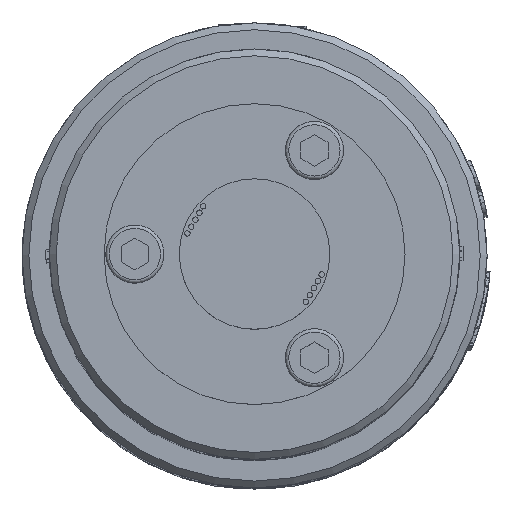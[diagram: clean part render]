
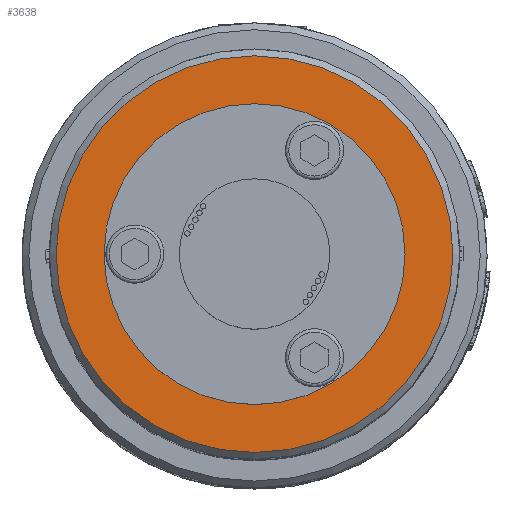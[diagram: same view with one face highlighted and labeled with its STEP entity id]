
A CAD part, top view. The second image highlights one B-rep face of the part: STEP entity #3638.
In plain terms, the highlighted planar face has unit normal (0, 0, 1).
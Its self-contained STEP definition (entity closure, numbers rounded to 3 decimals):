
#904=FACE_BOUND('',#8782,.T.);
#905=FACE_BOUND('',#8783,.T.);
#1486=CIRCLE('',#27268,29.);
#1497=CIRCLE('',#27311,22.);
#1953=PLANE('',#27312);
#3638=ADVANCED_FACE('',(#904,#905),#1953,.T.);
#8782=EDGE_LOOP('',(#13503));
#8783=EDGE_LOOP('',(#13504));
#13503=ORIENTED_EDGE('',*,*,#21641,.T.);
#13504=ORIENTED_EDGE('',*,*,#21706,.F.);
#18632=VERTEX_POINT('',#43006);
#18679=VERTEX_POINT('',#43150);
#21641=EDGE_CURVE('',#18632,#18632,#1486,.T.);
#21706=EDGE_CURVE('',#18679,#18679,#1497,.T.);
#27268=AXIS2_PLACEMENT_3D('',#43005,#30425,#30426);
#27311=AXIS2_PLACEMENT_3D('',#43149,#30565,#30566);
#27312=AXIS2_PLACEMENT_3D('',#43151,#30567,#30568);
#30425=DIRECTION('',(0.,0.,1.));
#30426=DIRECTION('',(1.,0.,0.));
#30565=DIRECTION('',(0.,0.,1.));
#30566=DIRECTION('',(0.866,-0.5,0.));
#30567=DIRECTION('',(0.,0.,1.));
#30568=DIRECTION('',(1.,0.,0.));
#43005=CARTESIAN_POINT('',(0.,0.,233.));
#43006=CARTESIAN_POINT('',(29.,0.,233.));
#43149=CARTESIAN_POINT('',(0.,0.,233.));
#43150=CARTESIAN_POINT('',(19.053,-11.,233.));
#43151=CARTESIAN_POINT('',(0.,0.,233.));
